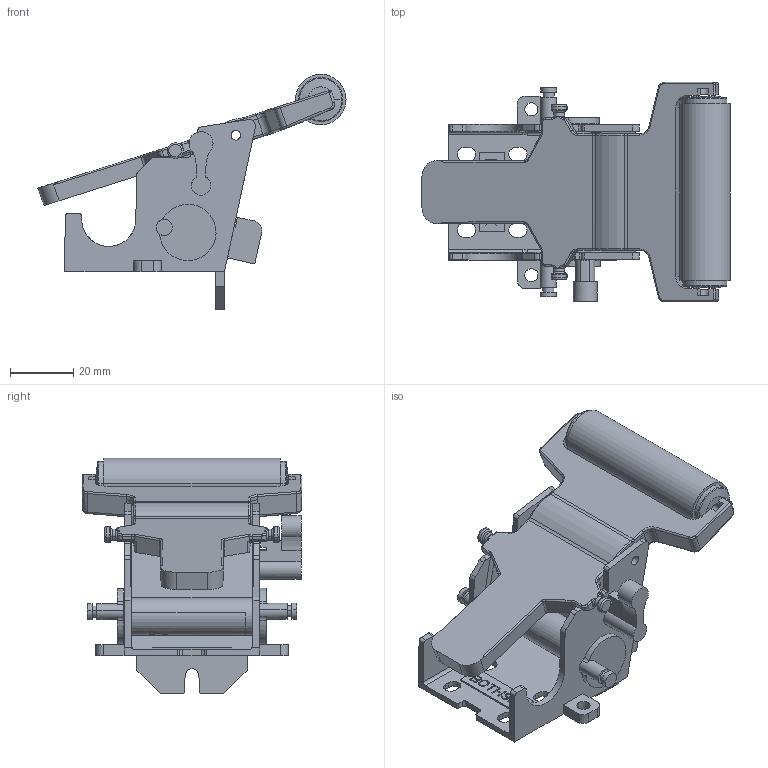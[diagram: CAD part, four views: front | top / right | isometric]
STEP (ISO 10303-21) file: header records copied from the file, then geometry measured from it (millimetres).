
FILE_DESCRIPTION((''),'2;1');
FILE_NAME('FS-ZHIJIA_ASM_1_ASM','2024-11-08T11:30:21',('admin'),(''),'CREO PARAMETRIC BY PTC INC, 2021023','CREO PARAMETRIC BY PTC INC, 2021023','');
FILE_SCHEMA(('CONFIG_CONTROL_DESIGN'));
Length unit declared in the file: millimetre
Products named in the file (4): FSKTKT-ZHIJIA_1; 60-PIAN; 1660-LUN; FS-ZHIJIA_ASM_1_ASM
Assembly tree (3 placements, depth 2):
  FS-ZHIJIA_ASM_1_ASM
    FSKTKT-ZHIJIA_1
    60-PIAN
    1660-LUN
Bounding box: 97.49 x 69.47 x 74.52 mm (x, y, z)
Volume: 52951.6 mm3; surface area: 30615.2 mm2
Topology: 3 solids, 3 shells, 717 faces, 1954 edges, 1272 vertices
Faces by surface type: plane 364, cylinder 171, bspline 120, cone 31, torus 31
Entity records: 28677 total; most frequent: CARTESIAN_POINT 11429, ORIENTED_EDGE 3908, DIRECTION 3041, EDGE_CURVE 1954, VERTEX_POINT 1272, VECTOR 1193, LINE 1193, AXIS2_PLACEMENT_3D 924
